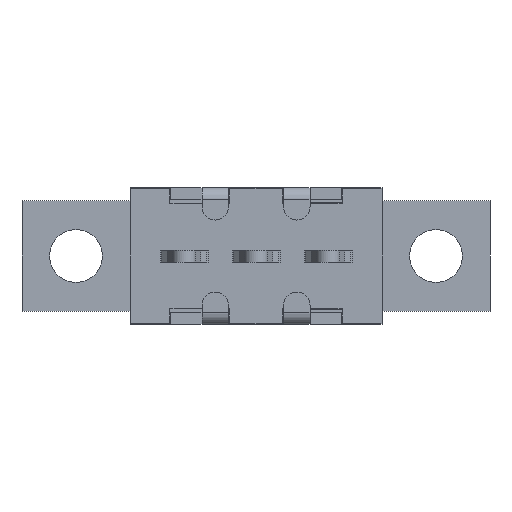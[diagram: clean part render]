
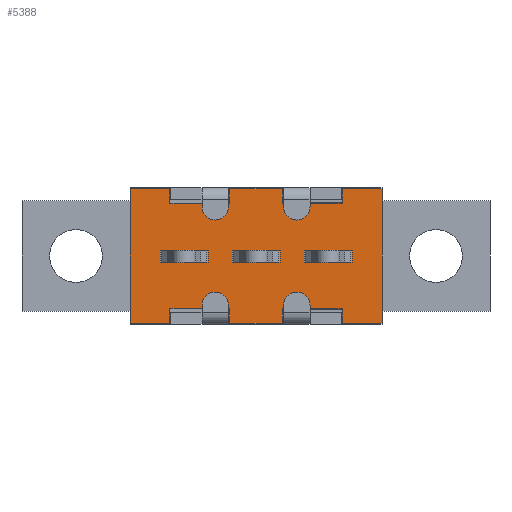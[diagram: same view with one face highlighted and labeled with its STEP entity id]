
A CAD part, front view. The second image highlights one B-rep face of the part: STEP entity #5388.
In plain terms, the highlighted planar face has unit normal (0, -1, 0).
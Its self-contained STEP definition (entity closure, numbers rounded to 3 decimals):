
#4511=DIRECTION('',(0.,0.,1.));
#4512=VECTOR('',#4511,0.5);
#4513=CARTESIAN_POINT('',(-2.,0.,-0.25));
#4514=LINE('',#4513,#4512);
#4518=DIRECTION('',(-1.,0.,0.));
#4519=VECTOR('',#4518,2.);
#4520=CARTESIAN_POINT('',(-2.,0.,0.25));
#4521=LINE('',#4520,#4519);
#4525=DIRECTION('',(0.,0.,-1.));
#4526=VECTOR('',#4525,0.5);
#4527=CARTESIAN_POINT('',(-4.,0.,0.25));
#4528=LINE('',#4527,#4526);
#4532=DIRECTION('',(1.,0.,0.));
#4533=VECTOR('',#4532,2.);
#4534=CARTESIAN_POINT('',(-4.,0.,-0.25));
#4535=LINE('',#4534,#4533);
#4539=DIRECTION('',(0.,0.,1.));
#4540=VECTOR('',#4539,0.5);
#4541=CARTESIAN_POINT('',(4.,0.,-0.25));
#4542=LINE('',#4541,#4540);
#4546=DIRECTION('',(-1.,0.,0.));
#4547=VECTOR('',#4546,2.);
#4548=CARTESIAN_POINT('',(4.,0.,0.25));
#4549=LINE('',#4548,#4547);
#4553=DIRECTION('',(0.,0.,-1.));
#4554=VECTOR('',#4553,0.5);
#4555=CARTESIAN_POINT('',(2.,0.,0.25));
#4556=LINE('',#4555,#4554);
#4560=DIRECTION('',(1.,0.,0.));
#4561=VECTOR('',#4560,2.);
#4562=CARTESIAN_POINT('',(2.,0.,-0.25));
#4563=LINE('',#4562,#4561);
#4567=DIRECTION('',(1.,0.,0.));
#4568=VECTOR('',#4567,2.);
#4569=CARTESIAN_POINT('',(-1.,0.,-0.25));
#4570=LINE('',#4569,#4568);
#4574=DIRECTION('',(0.,0.,1.));
#4575=VECTOR('',#4574,0.5);
#4576=CARTESIAN_POINT('',(1.,0.,-0.25));
#4577=LINE('',#4576,#4575);
#4581=DIRECTION('',(-1.,0.,0.));
#4582=VECTOR('',#4581,2.);
#4583=CARTESIAN_POINT('',(1.,0.,0.25));
#4584=LINE('',#4583,#4582);
#4588=DIRECTION('',(0.,0.,-1.));
#4589=VECTOR('',#4588,0.5);
#4590=CARTESIAN_POINT('',(-1.,0.,0.25));
#4591=LINE('',#4590,#4589);
#4595=DIRECTION('',(0.,0.,1.));
#4596=VECTOR('',#4595,0.6);
#4597=CARTESIAN_POINT('',(-1.1,0.,-2.8));
#4598=LINE('',#4597,#4596);
#4602=DIRECTION('',(-1.,0.,0.));
#4603=VECTOR('',#4602,2.485);
#4604=CARTESIAN_POINT('',(-1.1,0.,-2.2));
#4605=LINE('',#4604,#4603);
#4609=DIRECTION('',(0.,0.,-1.));
#4610=VECTOR('',#4609,0.6);
#4611=CARTESIAN_POINT('',(-3.585,0.,-2.2));
#4612=LINE('',#4611,#4610);
#4616=DIRECTION('',(-1.,0.,0.));
#4617=VECTOR('',#4616,1.665);
#4618=CARTESIAN_POINT('',(-3.585,0.,-2.8));
#4619=LINE('',#4618,#4617);
#4623=DIRECTION('',(0.,0.,1.));
#4624=VECTOR('',#4623,5.6);
#4625=CARTESIAN_POINT('',(-5.25,0.,-2.8));
#4626=LINE('',#4625,#4624);
#4630=DIRECTION('',(1.,0.,0.));
#4631=VECTOR('',#4630,1.665);
#4632=CARTESIAN_POINT('',(-5.25,0.,2.8));
#4633=LINE('',#4632,#4631);
#4637=DIRECTION('',(0.,0.,-1.));
#4638=VECTOR('',#4637,0.6);
#4639=CARTESIAN_POINT('',(-3.585,0.,2.8));
#4640=LINE('',#4639,#4638);
#4644=DIRECTION('',(1.,0.,0.));
#4645=VECTOR('',#4644,2.485);
#4646=CARTESIAN_POINT('',(-3.585,0.,2.2));
#4647=LINE('',#4646,#4645);
#4651=DIRECTION('',(0.,0.,1.));
#4652=VECTOR('',#4651,0.6);
#4653=CARTESIAN_POINT('',(-1.1,0.,2.2));
#4654=LINE('',#4653,#4652);
#4658=DIRECTION('',(1.,0.,0.));
#4659=VECTOR('',#4658,2.2);
#4660=CARTESIAN_POINT('',(-1.1,0.,2.8));
#4661=LINE('',#4660,#4659);
#4665=DIRECTION('',(0.,0.,-1.));
#4666=VECTOR('',#4665,0.6);
#4667=CARTESIAN_POINT('',(1.1,0.,2.8));
#4668=LINE('',#4667,#4666);
#4672=DIRECTION('',(1.,0.,0.));
#4673=VECTOR('',#4672,2.485);
#4674=CARTESIAN_POINT('',(1.1,0.,2.2));
#4675=LINE('',#4674,#4673);
#4679=DIRECTION('',(0.,0.,1.));
#4680=VECTOR('',#4679,0.6);
#4681=CARTESIAN_POINT('',(3.585,0.,2.2));
#4682=LINE('',#4681,#4680);
#4686=DIRECTION('',(1.,0.,0.));
#4687=VECTOR('',#4686,1.665);
#4688=CARTESIAN_POINT('',(3.585,0.,2.8));
#4689=LINE('',#4688,#4687);
#4693=DIRECTION('',(0.,0.,-1.));
#4694=VECTOR('',#4693,5.6);
#4695=CARTESIAN_POINT('',(5.25,0.,2.8));
#4696=LINE('',#4695,#4694);
#4700=DIRECTION('',(-1.,0.,0.));
#4701=VECTOR('',#4700,1.665);
#4702=CARTESIAN_POINT('',(5.25,0.,-2.8));
#4703=LINE('',#4702,#4701);
#4707=DIRECTION('',(0.,0.,1.));
#4708=VECTOR('',#4707,0.6);
#4709=CARTESIAN_POINT('',(3.585,0.,-2.8));
#4710=LINE('',#4709,#4708);
#4714=DIRECTION('',(-1.,0.,0.));
#4715=VECTOR('',#4714,2.485);
#4716=CARTESIAN_POINT('',(3.585,0.,-2.2));
#4717=LINE('',#4716,#4715);
#4721=DIRECTION('',(0.,0.,-1.));
#4722=VECTOR('',#4721,0.6);
#4723=CARTESIAN_POINT('',(1.1,0.,-2.2));
#4724=LINE('',#4723,#4722);
#4728=DIRECTION('',(-1.,0.,0.));
#4729=VECTOR('',#4728,2.2);
#4730=CARTESIAN_POINT('',(1.1,0.,-2.8));
#4731=LINE('',#4730,#4729);
#5183=CARTESIAN_POINT('',(-2.,0.,-0.25));
#5184=CARTESIAN_POINT('',(-2.,0.,0.25));
#5185=VERTEX_POINT('',#5183);
#5186=VERTEX_POINT('',#5184);
#5187=CARTESIAN_POINT('',(-4.,0.,0.25));
#5188=VERTEX_POINT('',#5187);
#5189=CARTESIAN_POINT('',(-4.,0.,-0.25));
#5190=VERTEX_POINT('',#5189);
#5191=CARTESIAN_POINT('',(4.,0.,-0.25));
#5192=CARTESIAN_POINT('',(4.,0.,0.25));
#5193=VERTEX_POINT('',#5191);
#5194=VERTEX_POINT('',#5192);
#5195=CARTESIAN_POINT('',(2.,0.,0.25));
#5196=VERTEX_POINT('',#5195);
#5197=CARTESIAN_POINT('',(2.,0.,-0.25));
#5198=VERTEX_POINT('',#5197);
#5199=CARTESIAN_POINT('',(-1.,0.,-0.25));
#5200=CARTESIAN_POINT('',(1.,0.,-0.25));
#5201=VERTEX_POINT('',#5199);
#5202=VERTEX_POINT('',#5200);
#5203=CARTESIAN_POINT('',(1.,0.,0.25));
#5204=VERTEX_POINT('',#5203);
#5205=CARTESIAN_POINT('',(-1.,0.,0.25));
#5206=VERTEX_POINT('',#5205);
#5207=CARTESIAN_POINT('',(-3.585,0.,-2.2));
#5208=CARTESIAN_POINT('',(-3.585,0.,-2.8));
#5209=VERTEX_POINT('',#5207);
#5210=VERTEX_POINT('',#5208);
#5239=CARTESIAN_POINT('',(-3.585,0.,2.8));
#5240=CARTESIAN_POINT('',(-3.585,0.,2.2));
#5241=VERTEX_POINT('',#5239);
#5242=VERTEX_POINT('',#5240);
#5243=CARTESIAN_POINT('',(3.585,0.,2.2));
#5244=CARTESIAN_POINT('',(3.585,0.,2.8));
#5245=VERTEX_POINT('',#5243);
#5246=VERTEX_POINT('',#5244);
#5247=CARTESIAN_POINT('',(3.585,0.,-2.8));
#5248=CARTESIAN_POINT('',(3.585,0.,-2.2));
#5249=VERTEX_POINT('',#5247);
#5250=VERTEX_POINT('',#5248);
#5263=CARTESIAN_POINT('',(5.25,0.,2.8));
#5264=CARTESIAN_POINT('',(5.25,0.,-2.8));
#5265=VERTEX_POINT('',#5263);
#5266=VERTEX_POINT('',#5264);
#5267=CARTESIAN_POINT('',(-5.25,0.,-2.8));
#5268=VERTEX_POINT('',#5267);
#5269=CARTESIAN_POINT('',(-5.25,0.,2.8));
#5270=VERTEX_POINT('',#5269);
#5279=CARTESIAN_POINT('',(1.1,0.,-2.8));
#5280=CARTESIAN_POINT('',(-1.1,0.,-2.8));
#5281=VERTEX_POINT('',#5279);
#5282=VERTEX_POINT('',#5280);
#5283=CARTESIAN_POINT('',(-1.1,0.,-2.2));
#5284=VERTEX_POINT('',#5283);
#5291=CARTESIAN_POINT('',(-1.1,0.,2.2));
#5292=VERTEX_POINT('',#5291);
#5293=CARTESIAN_POINT('',(-1.1,0.,2.8));
#5294=VERTEX_POINT('',#5293);
#5295=CARTESIAN_POINT('',(1.1,0.,2.8));
#5296=VERTEX_POINT('',#5295);
#5297=CARTESIAN_POINT('',(1.1,0.,2.2));
#5298=VERTEX_POINT('',#5297);
#5299=CARTESIAN_POINT('',(1.1,0.,-2.2));
#5300=VERTEX_POINT('',#5299);
#5311=CARTESIAN_POINT('',(0.,0.,0.));
#5312=DIRECTION('',(0.,1.,0.));
#5313=DIRECTION('',(1.,0.,0.));
#5314=AXIS2_PLACEMENT_3D('',#5311,#5312,#5313);
#5315=PLANE('',#5314);
#5317=ORIENTED_EDGE('',*,*,#5316,.T.);
#5319=ORIENTED_EDGE('',*,*,#5318,.T.);
#5321=ORIENTED_EDGE('',*,*,#5320,.T.);
#5323=ORIENTED_EDGE('',*,*,#5322,.T.);
#5325=ORIENTED_EDGE('',*,*,#5324,.T.);
#5327=ORIENTED_EDGE('',*,*,#5326,.T.);
#5329=ORIENTED_EDGE('',*,*,#5328,.T.);
#5331=ORIENTED_EDGE('',*,*,#5330,.T.);
#5333=ORIENTED_EDGE('',*,*,#5332,.T.);
#5335=ORIENTED_EDGE('',*,*,#5334,.T.);
#5337=ORIENTED_EDGE('',*,*,#5336,.T.);
#5339=ORIENTED_EDGE('',*,*,#5338,.T.);
#5341=ORIENTED_EDGE('',*,*,#5340,.T.);
#5343=ORIENTED_EDGE('',*,*,#5342,.T.);
#5345=ORIENTED_EDGE('',*,*,#5344,.T.);
#5347=ORIENTED_EDGE('',*,*,#5346,.T.);
#5349=ORIENTED_EDGE('',*,*,#5348,.T.);
#5351=ORIENTED_EDGE('',*,*,#5350,.T.);
#5353=ORIENTED_EDGE('',*,*,#5352,.T.);
#5355=ORIENTED_EDGE('',*,*,#5354,.T.);
#5356=EDGE_LOOP('',(#5317,#5319,#5321,#5323,#5325,#5327,#5329,#5331,#5333,#5335,
#5337,#5339,#5341,#5343,#5345,#5347,#5349,#5351,#5353,#5355));
#5357=FACE_OUTER_BOUND('',#5356,.F.);
#5359=ORIENTED_EDGE('',*,*,#5358,.T.);
#5361=ORIENTED_EDGE('',*,*,#5360,.T.);
#5363=ORIENTED_EDGE('',*,*,#5362,.T.);
#5365=ORIENTED_EDGE('',*,*,#5364,.T.);
#5366=EDGE_LOOP('',(#5359,#5361,#5363,#5365));
#5367=FACE_BOUND('',#5366,.F.);
#5369=ORIENTED_EDGE('',*,*,#5368,.T.);
#5371=ORIENTED_EDGE('',*,*,#5370,.T.);
#5373=ORIENTED_EDGE('',*,*,#5372,.T.);
#5375=ORIENTED_EDGE('',*,*,#5374,.T.);
#5376=EDGE_LOOP('',(#5369,#5371,#5373,#5375));
#5377=FACE_BOUND('',#5376,.F.);
#5379=ORIENTED_EDGE('',*,*,#5378,.T.);
#5381=ORIENTED_EDGE('',*,*,#5380,.T.);
#5383=ORIENTED_EDGE('',*,*,#5382,.T.);
#5385=ORIENTED_EDGE('',*,*,#5384,.T.);
#5386=EDGE_LOOP('',(#5379,#5381,#5383,#5385));
#5387=FACE_BOUND('',#5386,.F.);
#5316=EDGE_CURVE('',#5282,#5284,#4598,.T.);
#5318=EDGE_CURVE('',#5284,#5209,#4605,.T.);
#5320=EDGE_CURVE('',#5209,#5210,#4612,.T.);
#5322=EDGE_CURVE('',#5210,#5268,#4619,.T.);
#5324=EDGE_CURVE('',#5268,#5270,#4626,.T.);
#5326=EDGE_CURVE('',#5270,#5241,#4633,.T.);
#5328=EDGE_CURVE('',#5241,#5242,#4640,.T.);
#5330=EDGE_CURVE('',#5242,#5292,#4647,.T.);
#5332=EDGE_CURVE('',#5292,#5294,#4654,.T.);
#5334=EDGE_CURVE('',#5294,#5296,#4661,.T.);
#5336=EDGE_CURVE('',#5296,#5298,#4668,.T.);
#5338=EDGE_CURVE('',#5298,#5245,#4675,.T.);
#5340=EDGE_CURVE('',#5245,#5246,#4682,.T.);
#5342=EDGE_CURVE('',#5246,#5265,#4689,.T.);
#5344=EDGE_CURVE('',#5265,#5266,#4696,.T.);
#5346=EDGE_CURVE('',#5266,#5249,#4703,.T.);
#5348=EDGE_CURVE('',#5249,#5250,#4710,.T.);
#5350=EDGE_CURVE('',#5250,#5300,#4717,.T.);
#5352=EDGE_CURVE('',#5300,#5281,#4724,.T.);
#5354=EDGE_CURVE('',#5281,#5282,#4731,.T.);
#5358=EDGE_CURVE('',#5193,#5194,#4542,.T.);
#5360=EDGE_CURVE('',#5194,#5196,#4549,.T.);
#5362=EDGE_CURVE('',#5196,#5198,#4556,.T.);
#5364=EDGE_CURVE('',#5198,#5193,#4563,.T.);
#5368=EDGE_CURVE('',#5201,#5202,#4570,.T.);
#5370=EDGE_CURVE('',#5202,#5204,#4577,.T.);
#5372=EDGE_CURVE('',#5204,#5206,#4584,.T.);
#5374=EDGE_CURVE('',#5206,#5201,#4591,.T.);
#5378=EDGE_CURVE('',#5185,#5186,#4514,.T.);
#5380=EDGE_CURVE('',#5186,#5188,#4521,.T.);
#5382=EDGE_CURVE('',#5188,#5190,#4528,.T.);
#5384=EDGE_CURVE('',#5190,#5185,#4535,.T.);
#5388=ADVANCED_FACE('',(#5357,#5367,#5377,#5387),#5315,.F.);
